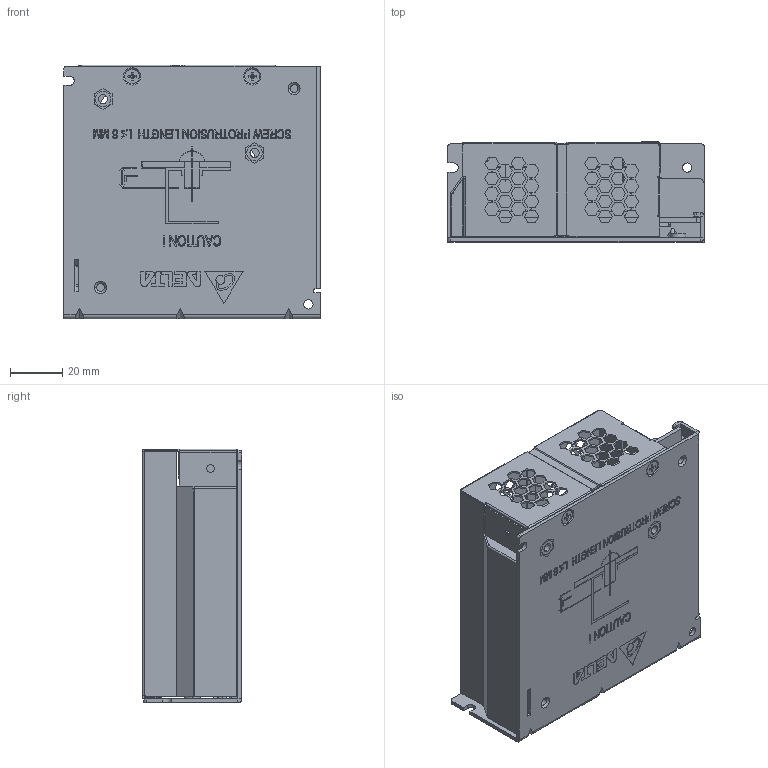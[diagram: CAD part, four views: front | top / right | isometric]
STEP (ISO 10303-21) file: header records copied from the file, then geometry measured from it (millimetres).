
FILE_DESCRIPTION((''),'2;1');
FILE_NAME('PMC-05V035W1AA_ASM','2012-04-20T',('Manop.Pr'),(''),'PRO/ENGINEER BY PARAMETRIC TECHNOLOGY CORPORATION, 2010180','PRO/ENGINEER BY PARAMETRIC TECHNOLOGY CORPORATION, 2010180','');
FILE_SCHEMA(('CONFIG_CONTROL_DESIGN','SHAPE_APPEARANCE_LAYERS_GROUPS'));
Products named in the file (17): 331609650101; 331609650101_A_STUD; 331609650101_ASM; 331605710101; 326203870304; 3268211200; 2958045701_PWB; 307049747W_A_BODY; 307049747W_A_SCREW; 307049747W_ASM; EE_VR1_A_1; EE_VR_LEG1__; EE_VR_ASM; EE_LED_; ASSY_PWB_ASM; 3100000400; PMC-05V035W1AA_ASM
Assembly tree (26 placements, depth 4):
  PMC-05V035W1AA_ASM
    331609650101_ASM
      331609650101
      331609650101_A_STUD  x2
    331605710101
    326203870304
    3268211200
    ASSY_PWB_ASM
      2958045701_PWB
      307049747W_ASM
        307049747W_A_BODY
        307049747W_A_SCREW  x5
      EE_VR_ASM
        EE_VR1_A_1
        EE_VR_LEG1__  x3
      EE_LED_
    3100000400  x4
Bounding box: 98 x 38.15 x 97.05 mm (x, y, z)
Volume: 49791.5 mm3; surface area: 87754.4 mm2
Topology: 22 solids, 22 shells, 4430 faces, 11768 edges, 7283 vertices
Faces by surface type: plane 3224, cylinder 466, extrusion 408, bspline 208, cone 104, torus 20
Entity records: 151601 total; most frequent: CARTESIAN_POINT 26875, ORIENTED_EDGE 20088, DIRECTION 16813, PRESENTATION_STYLE_ASSIGNMENT 10216, EDGE_CURVE 10044, STYLED_ITEM 10019, CURVE_STYLE 10008, VECTOR 8771
